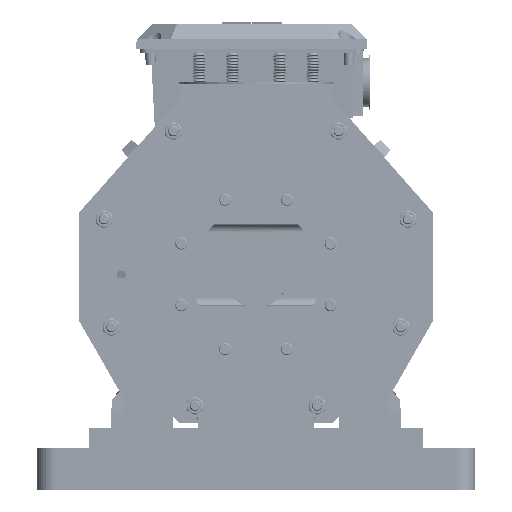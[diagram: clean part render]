
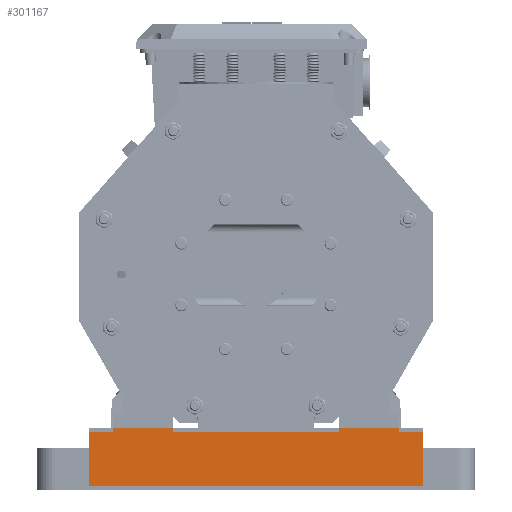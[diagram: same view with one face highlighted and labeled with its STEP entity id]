
A CAD part, front view. The second image highlights one B-rep face of the part: STEP entity #301167.
In plain terms, the highlighted planar face has unit normal (0, -1, 0).
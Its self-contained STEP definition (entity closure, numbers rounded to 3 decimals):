
#299713=CARTESIAN_POINT('',(-186.1,17.0,-190.0));
#299714=VERTEX_POINT('',#299713);
#299731=CARTESIAN_POINT('',(-186.1,17.0,-195.0));
#299732=VERTEX_POINT('',#299731);
#299739=CARTESIAN_POINT('',(-186.1,17.0,-195.0));
#299740=DIRECTION('',(0.0,0.0,1.0));
#299741=VECTOR('',#299740,5.0);
#299742=LINE('',#299739,#299741);
#299743=EDGE_CURVE('',#299732,#299714,#299742,.T.);
#299784=CARTESIAN_POINT('',(-108.1,17.0,-190.0));
#299785=VERTEX_POINT('',#299784);
#299792=CARTESIAN_POINT('',(-108.1,17.0,-195.0));
#299793=VERTEX_POINT('',#299792);
#299794=CARTESIAN_POINT('',(-108.1,17.0,-195.0));
#299795=DIRECTION('',(0.0,0.0,1.0));
#299796=VECTOR('',#299795,5.0);
#299797=LINE('',#299794,#299796);
#299798=EDGE_CURVE('',#299793,#299785,#299797,.T.);
#299815=CARTESIAN_POINT('',(-108.1,17.0,-190.0));
#299816=DIRECTION('',(-1.0,0.0,0.0));
#299817=VECTOR('',#299816,78.0);
#299818=LINE('',#299815,#299817);
#299819=EDGE_CURVE('',#299785,#299714,#299818,.T.);
#299880=CARTESIAN_POINT('',(186.1,17.0,-190.0));
#299881=VERTEX_POINT('',#299880);
#299888=CARTESIAN_POINT('',(186.1,17.0,-195.0));
#299889=VERTEX_POINT('',#299888);
#299890=CARTESIAN_POINT('',(186.1,17.0,-195.0));
#299891=DIRECTION('',(0.0,0.0,1.0));
#299892=VECTOR('',#299891,5.0);
#299893=LINE('',#299890,#299892);
#299894=EDGE_CURVE('',#299889,#299881,#299893,.T.);
#299911=CARTESIAN_POINT('',(108.1,17.0,-190.0));
#299912=VERTEX_POINT('',#299911);
#299920=CARTESIAN_POINT('',(108.1,17.0,-195.0));
#299921=VERTEX_POINT('',#299920);
#299928=CARTESIAN_POINT('',(108.1,17.0,-195.0));
#299929=DIRECTION('',(0.0,0.0,1.0));
#299930=VECTOR('',#299929,5.0);
#299931=LINE('',#299928,#299930);
#299932=EDGE_CURVE('',#299921,#299912,#299931,.T.);
#299944=CARTESIAN_POINT('',(186.1,17.0,-190.0));
#299945=DIRECTION('',(-1.0,0.0,0.0));
#299946=VECTOR('',#299945,78.0);
#299947=LINE('',#299944,#299946);
#299948=EDGE_CURVE('',#299881,#299912,#299947,.T.);
#299970=CARTESIAN_POINT('',(108.1,17.0,-195.0));
#299971=DIRECTION('',(-1.0,0.0,0.0));
#299972=VECTOR('',#299971,216.2);
#299973=LINE('',#299970,#299972);
#299974=EDGE_CURVE('',#299921,#299793,#299973,.T.);
#299979=CARTESIAN_POINT('',(217.5,17.,-195.0));
#299980=VERTEX_POINT('',#299979);
#299981=CARTESIAN_POINT('',(217.5,17.,-195.0));
#299982=DIRECTION('',(-1.0,0.0,0.0));
#299983=VECTOR('',#299982,31.4);
#299984=LINE('',#299981,#299983);
#299985=EDGE_CURVE('',#299980,#299889,#299984,.T.);
#300003=CARTESIAN_POINT('',(-217.5,17.,-195.0));
#300004=VERTEX_POINT('',#300003);
#300011=CARTESIAN_POINT('',(-186.1,17.0,-195.0));
#300012=DIRECTION('',(-1.0,0.0,0.0));
#300013=VECTOR('',#300012,31.4);
#300014=LINE('',#300011,#300013);
#300015=EDGE_CURVE('',#299732,#300004,#300014,.T.);
#301063=CARTESIAN_POINT('',(217.5,17.,-265.0));
#301064=VERTEX_POINT('',#301063);
#301071=CARTESIAN_POINT('',(-217.5,17.,-265.0));
#301072=VERTEX_POINT('',#301071);
#301073=CARTESIAN_POINT('',(-217.5,17.,-265.0));
#301074=DIRECTION('',(1.0,0.0,0.0));
#301075=VECTOR('',#301074,435.0);
#301076=LINE('',#301073,#301075);
#301077=EDGE_CURVE('',#301072,#301064,#301076,.T.);
#301138=CARTESIAN_POINT('',(217.5,17.,-270.0));
#301139=DIRECTION('',(0.0,-1.0,0.0));
#301140=DIRECTION('',(0.0,0.0,-1.0));
#301141=AXIS2_PLACEMENT_3D('',#301138,#301139,#301140);
#301142=PLANE('',#301141);
#301143=ORIENTED_EDGE('',*,*,#301077,.T.);
#301144=CARTESIAN_POINT('',(217.5,17.,-265.0));
#301145=DIRECTION('',(0.0,0.0,1.0));
#301146=VECTOR('',#301145,70.0);
#301147=LINE('',#301144,#301146);
#301148=EDGE_CURVE('',#301064,#299980,#301147,.T.);
#301149=ORIENTED_EDGE('',*,*,#301148,.T.);
#301150=ORIENTED_EDGE('',*,*,#299985,.T.);
#301151=ORIENTED_EDGE('',*,*,#299894,.T.);
#301152=ORIENTED_EDGE('',*,*,#299948,.T.);
#301153=ORIENTED_EDGE('',*,*,#299932,.F.);
#301154=ORIENTED_EDGE('',*,*,#299974,.T.);
#301155=ORIENTED_EDGE('',*,*,#299798,.T.);
#301156=ORIENTED_EDGE('',*,*,#299819,.T.);
#301157=ORIENTED_EDGE('',*,*,#299743,.F.);
#301158=ORIENTED_EDGE('',*,*,#300015,.T.);
#301159=CARTESIAN_POINT('',(-217.5,17.,-265.0));
#301160=DIRECTION('',(0.0,0.0,1.0));
#301161=VECTOR('',#301160,70.0);
#301162=LINE('',#301159,#301161);
#301163=EDGE_CURVE('',#301072,#300004,#301162,.T.);
#301164=ORIENTED_EDGE('',*,*,#301163,.F.);
#301165=EDGE_LOOP('',(#301143,#301149,#301150,#301151,#301152,#301153,#301154,#301155,#301156,#301157,#301158,#301164));
#301166=FACE_OUTER_BOUND('',#301165,.T.);
#301167=ADVANCED_FACE('',(#301166),#301142,.T.);
